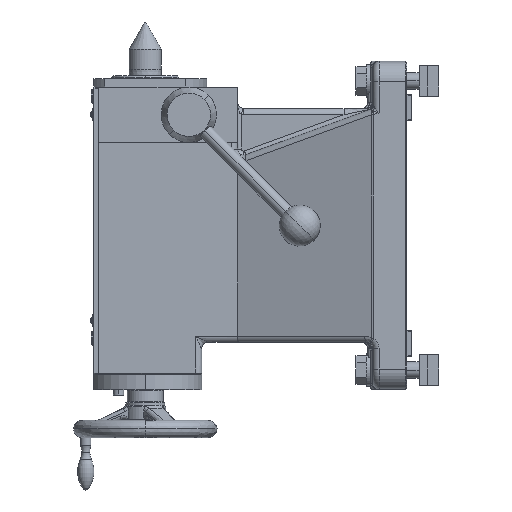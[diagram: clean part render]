
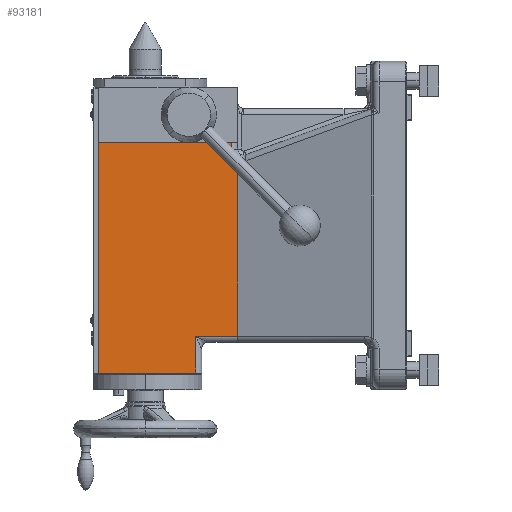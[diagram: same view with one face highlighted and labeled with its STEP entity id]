
A CAD part, left-side view. The second image highlights one B-rep face of the part: STEP entity #93181.
In plain terms, the highlighted planar face has unit normal (-1, 0, 0).
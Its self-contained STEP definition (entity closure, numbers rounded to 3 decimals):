
#1191 = DIRECTION ( 'NONE',  ( 0., 0., -1. ) ) ;
#2782 = ORIENTED_EDGE ( 'NONE', *, *, #39401, .T. ) ;
#3616 = CARTESIAN_POINT ( 'NONE',  ( -62., 165., -96.738 ) ) ;
#4889 = EDGE_CURVE ( 'NONE', #15622, #20087, #69787, .T. ) ;
#9438 = DIRECTION ( 'NONE',  ( 0., 0., 1. ) ) ;
#10061 = LINE ( 'NONE', #76551, #68404 ) ;
#10813 = VERTEX_POINT ( 'NONE', #14210 ) ;
#11180 = AXIS2_PLACEMENT_3D ( 'NONE', #68188, #75873, #30244 ) ;
#11265 = CARTESIAN_POINT ( 'NONE',  ( -62., 164.987, -96.472 ) ) ;
#12045 = EDGE_CURVE ( 'NONE', #10813, #20087, #19264, .T. ) ;
#12801 = DIRECTION ( 'NONE',  ( 0., 0., 1. ) ) ;
#14210 = CARTESIAN_POINT ( 'NONE',  ( -62., 171., -79. ) ) ;
#14949 = CARTESIAN_POINT ( 'NONE',  ( -62., -0.001, -79. ) ) ;
#15255 = EDGE_CURVE ( 'NONE', #19237, #46542, #45141, .T. ) ;
#15622 = VERTEX_POINT ( 'NONE', #20716 ) ;
#17408 = VERTEX_POINT ( 'NONE', #35020 ) ;
#17917 = VECTOR ( 'NONE', #52987, 1000. ) ;
#18930 = CARTESIAN_POINT ( 'NONE',  ( -62., 164.89, -96.084 ) ) ;
#19237 = VERTEX_POINT ( 'NONE', #44234 ) ;
#19264 = LINE ( 'NONE', #14949, #98005 ) ;
#19535 = FACE_OUTER_BOUND ( 'NONE', #21653, .T. ) ;
#19926 = ORIENTED_EDGE ( 'NONE', *, *, #12045, .T. ) ;
#20033 = VECTOR ( 'NONE', #35567, 1000. ) ;
#20087 = VERTEX_POINT ( 'NONE', #52500 ) ;
#20716 = CARTESIAN_POINT ( 'NONE',  ( -62., 300.5, -304. ) ) ;
#21544 = ORIENTED_EDGE ( 'NONE', *, *, #54177, .T. ) ;
#21653 = EDGE_LOOP ( 'NONE', ( #60213, #63872, #21544, #97233, #26926, #2782, #82742, #46651, #19926 ) ) ;
#21976 = EDGE_CURVE ( 'NONE', #46542, #10813, #80792, .T. ) ;
#22089 = CARTESIAN_POINT ( 'NONE',  ( -62., 171., -85.475 ) ) ;
#22617 = PLANE ( 'NONE',  #11180 ) ;
#24712 = CARTESIAN_POINT ( 'NONE',  ( -62., 165., -320. ) ) ;
#26926 = ORIENTED_EDGE ( 'NONE', *, *, #75064, .T. ) ;
#30244 = DIRECTION ( 'NONE',  ( 0., 0., -1. ) ) ;
#34936 = B_SPLINE_CURVE_WITH_KNOTS ( 'NONE', 3,
 ( #3616, #56872, #11265, #64500, #18930, #72179 ),
 .UNSPECIFIED., .F., .F.,
 ( 4, 2, 4 ),
 ( 0., 0., 0.001 ),
 .UNSPECIFIED. ) ;
#35020 = CARTESIAN_POINT ( 'NONE',  ( -62., 165., -268. ) ) ;
#35567 = DIRECTION ( 'NONE',  ( 0., 0., 1. ) ) ;
#38148 = LINE ( 'NONE', #45286, #17917 ) ;
#39130 = EDGE_CURVE ( 'NONE', #81296, #17408, #38148, .T. ) ;
#39401 = EDGE_CURVE ( 'NONE', #57580, #19237, #34936, .T. ) ;
#44234 = CARTESIAN_POINT ( 'NONE',  ( -62., 164.834, -95.962 ) ) ;
#45141 = CIRCLE ( 'NONE', #91661, 12. ) ;
#45286 = CARTESIAN_POINT ( 'NONE',  ( -62., 165., -268. ) ) ;
#45780 = CARTESIAN_POINT ( 'NONE',  ( -62., 165., -304. ) ) ;
#46542 = VERTEX_POINT ( 'NONE', #22089 ) ;
#46651 = ORIENTED_EDGE ( 'NONE', *, *, #21976, .T. ) ;
#46705 = DIRECTION ( 'NONE',  ( 1., 0., 0. ) ) ;
#48226 = EDGE_CURVE ( 'NONE', #15622, #74279, #75447, .T. ) ;
#49510 = VECTOR ( 'NONE', #12801, 1000. ) ;
#52500 = CARTESIAN_POINT ( 'NONE',  ( -62., 300.5, -79. ) ) ;
#52987 = DIRECTION ( 'NONE',  ( 0., -1., 0. ) ) ;
#54177 = EDGE_CURVE ( 'NONE', #74279, #81296, #10061, .T. ) ;
#55164 = VECTOR ( 'NONE', #91849, 1000. ) ;
#56872 = CARTESIAN_POINT ( 'NONE',  ( -62., 165., -96.604 ) ) ;
#57580 = VERTEX_POINT ( 'NONE', #62936 ) ;
#58543 = CARTESIAN_POINT ( 'NONE',  ( -62., 171., -320. ) ) ;
#60213 = ORIENTED_EDGE ( 'NONE', *, *, #4889, .F. ) ;
#60523 = DIRECTION ( 'NONE',  ( 0., 1., 0. ) ) ;
#60680 = VECTOR ( 'NONE', #9438, 1000. ) ;
#62936 = CARTESIAN_POINT ( 'NONE',  ( -62., 165., -96.738 ) ) ;
#63059 = LINE ( 'NONE', #24712, #60680 ) ;
#63872 = ORIENTED_EDGE ( 'NONE', *, *, #48226, .T. ) ;
#64500 = CARTESIAN_POINT ( 'NONE',  ( -62., 164.933, -96.212 ) ) ;
#68188 = CARTESIAN_POINT ( 'NONE',  ( -62., 165., -320. ) ) ;
#68404 = VECTOR ( 'NONE', #98612, 1000. ) ;
#69780 = CARTESIAN_POINT ( 'NONE',  ( -62., 206., -304. ) ) ;
#69787 = LINE ( 'NONE', #96413, #49510 ) ;
#72179 = CARTESIAN_POINT ( 'NONE',  ( -62., 164.834, -95.962 ) ) ;
#74279 = VERTEX_POINT ( 'NONE', #69780 ) ;
#75064 = EDGE_CURVE ( 'NONE', #17408, #57580, #63059, .T. ) ;
#75447 = LINE ( 'NONE', #45780, #55164 ) ;
#75873 = DIRECTION ( 'NONE',  ( 1., 0., 0. ) ) ;
#76551 = CARTESIAN_POINT ( 'NONE',  ( -62., 206., -320. ) ) ;
#80792 = LINE ( 'NONE', #58543, #20033 ) ;
#81296 = VERTEX_POINT ( 'NONE', #91950 ) ;
#82742 = ORIENTED_EDGE ( 'NONE', *, *, #15255, .T. ) ;
#91661 = AXIS2_PLACEMENT_3D ( 'NONE', #92412, #46705, #1191 ) ;
#91849 = DIRECTION ( 'NONE',  ( 0., -1., 0. ) ) ;
#91950 = CARTESIAN_POINT ( 'NONE',  ( -62., 206., -268. ) ) ;
#92412 = CARTESIAN_POINT ( 'NONE',  ( -62., 159., -85.475 ) ) ;
#93181 = ADVANCED_FACE ( 'NONE', ( #19535 ), #22617, .F. ) ;
#96413 = CARTESIAN_POINT ( 'NONE',  ( -62., 300.5, -320. ) ) ;
#97233 = ORIENTED_EDGE ( 'NONE', *, *, #39130, .T. ) ;
#98005 = VECTOR ( 'NONE', #60523, 1000. ) ;
#98612 = DIRECTION ( 'NONE',  ( 0., 0., 1. ) ) ;
